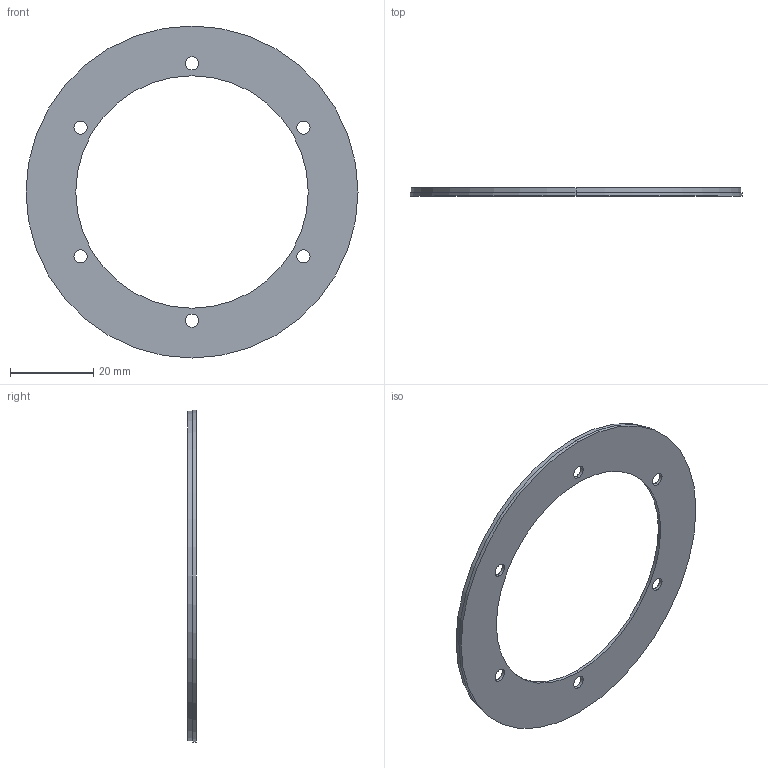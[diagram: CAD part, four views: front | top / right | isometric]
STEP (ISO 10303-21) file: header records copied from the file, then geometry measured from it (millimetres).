
FILE_DESCRIPTION (( 'STEP AP214' ), '1' );
FILE_NAME ('IRR-096-A21_rev01.STEP', '2023-11-07T18:11:57', ( '' ), ( '' ), 'SwSTEP 2.0', 'SolidWorks 2021', '' );
FILE_SCHEMA (( 'AUTOMOTIVE_DESIGN' ));
Length unit declared in the file: millimetre
Products named in the file (1): IRR-096-A21_rev01
Bounding box: 80 x 2 x 80 mm (x, y, z)
Volume: 3546.6 mm3; surface area: 8535.8 mm2
Topology: 2 solids, 2 shells, 28 faces, 72 edges, 48 vertices
Faces by surface type: cylinder 20, plane 8
Entity records: 1261 total; most frequent: DIRECTION 172, CARTESIAN_POINT 149, ORIENTED_EDGE 144, EDGE_CURVE 72, AXIS2_PLACEMENT_3D 71, VERTEX_POINT 48, EDGE_LOOP 44, CIRCLE 42
